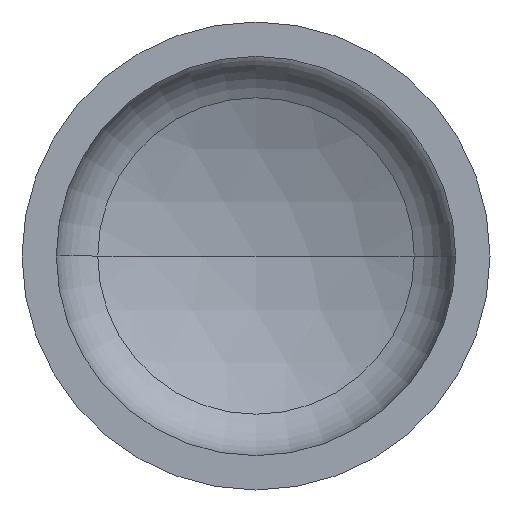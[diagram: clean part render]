
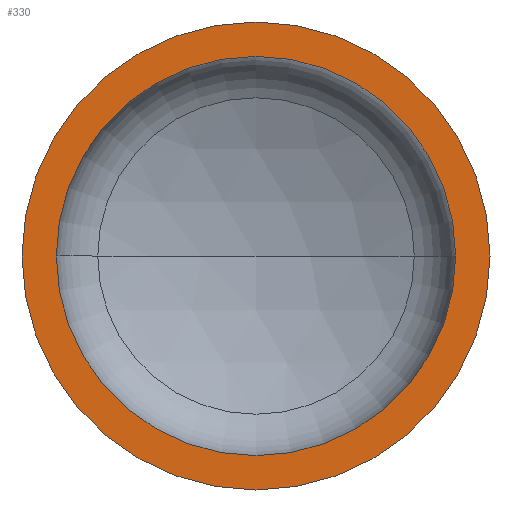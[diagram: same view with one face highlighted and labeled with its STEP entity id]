
A CAD part, front view. The second image highlights one B-rep face of the part: STEP entity #330.
In plain terms, the highlighted planar face has unit normal (0, -1, 0).
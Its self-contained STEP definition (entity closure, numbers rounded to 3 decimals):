
#3 = VERTEX_POINT ( 'NONE', #239 ) ;
#5 = EDGE_LOOP ( 'NONE', ( #138, #97 ) ) ;
#11 = VERTEX_POINT ( 'NONE', #260 ) ;
#20 = AXIS2_PLACEMENT_3D ( 'NONE', #180, #104, #102 ) ;
#21 = AXIS2_PLACEMENT_3D ( 'NONE', #389, #178, #137 ) ;
#34 = ORIENTED_EDGE ( 'NONE', *, *, #197, .F. ) ;
#37 = AXIS2_PLACEMENT_3D ( 'NONE', #210, #208, #209 ) ;
#39 = PLANE ( 'NONE',  #20 ) ;
#52 = EDGE_LOOP ( 'NONE', ( #93, #34 ) ) ;
#56 = AXIS2_PLACEMENT_3D ( 'NONE', #307, #295, #291 ) ;
#59 = AXIS2_PLACEMENT_3D ( 'NONE', #306, #305, #303 ) ;
#82 = EDGE_CURVE ( 'NONE', #125, #126, #340, .T. ) ;
#84 = EDGE_CURVE ( 'NONE', #11, #3, #397, .T. ) ;
#93 = ORIENTED_EDGE ( 'NONE', *, *, #84, .F. ) ;
#97 = ORIENTED_EDGE ( 'NONE', *, *, #82, .T. ) ;
#102 = DIRECTION ( 'NONE',  ( -1., 0., 0. ) ) ;
#104 = DIRECTION ( 'NONE',  ( 0., 1., 0. ) ) ;
#108 = FACE_OUTER_BOUND ( 'NONE', #5, .T. ) ;
#125 = VERTEX_POINT ( 'NONE', #191 ) ;
#126 = VERTEX_POINT ( 'NONE', #188 ) ;
#137 = DIRECTION ( 'NONE',  ( 1., 0., 0. ) ) ;
#138 = ORIENTED_EDGE ( 'NONE', *, *, #338, .T. ) ;
#178 = DIRECTION ( 'NONE',  ( 0., -1., 0. ) ) ;
#180 = CARTESIAN_POINT ( 'NONE',  ( -750., 0., 0. ) ) ;
#184 = CIRCLE ( 'NONE', #21, 750. ) ;
#188 = CARTESIAN_POINT ( 'NONE',  ( 750., 0., 0. ) ) ;
#191 = CARTESIAN_POINT ( 'NONE',  ( -750., 0., 0. ) ) ;
#197 = EDGE_CURVE ( 'NONE', #3, #11, #265, .T. ) ;
#208 = DIRECTION ( 'NONE',  ( 0., -1., 0. ) ) ;
#209 = DIRECTION ( 'NONE',  ( 1., 0., 0. ) ) ;
#210 = CARTESIAN_POINT ( 'NONE',  ( 0., 0., 0. ) ) ;
#239 = CARTESIAN_POINT ( 'NONE',  ( -640., 0., 0. ) ) ;
#257 = FACE_BOUND ( 'NONE', #52, .T. ) ;
#260 = CARTESIAN_POINT ( 'NONE',  ( 640., 0., 0. ) ) ;
#265 = CIRCLE ( 'NONE', #37, 640. ) ;
#291 = DIRECTION ( 'NONE',  ( 1., 0., 0. ) ) ;
#295 = DIRECTION ( 'NONE',  ( 0., -1., 0. ) ) ;
#303 = DIRECTION ( 'NONE',  ( 1., 0., 0. ) ) ;
#305 = DIRECTION ( 'NONE',  ( 0., -1., 0. ) ) ;
#306 = CARTESIAN_POINT ( 'NONE',  ( 0., 0., 0. ) ) ;
#307 = CARTESIAN_POINT ( 'NONE',  ( 0., 0., 0. ) ) ;
#330 = ADVANCED_FACE ( 'NONE', ( #257, #108 ), #39, .F. ) ;
#338 = EDGE_CURVE ( 'NONE', #126, #125, #184, .T. ) ;
#340 = CIRCLE ( 'NONE', #59, 750. ) ;
#389 = CARTESIAN_POINT ( 'NONE',  ( 0., 0., 0. ) ) ;
#397 = CIRCLE ( 'NONE', #56, 640. ) ;
